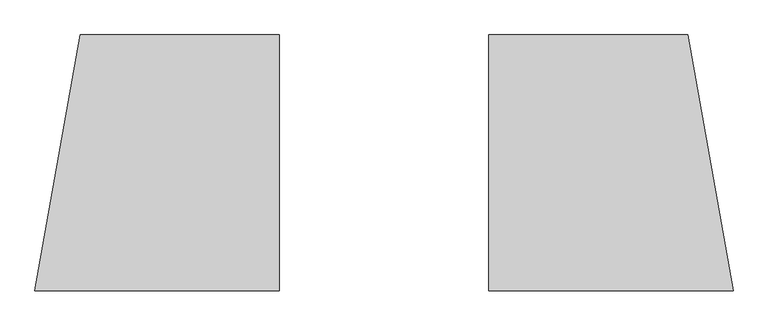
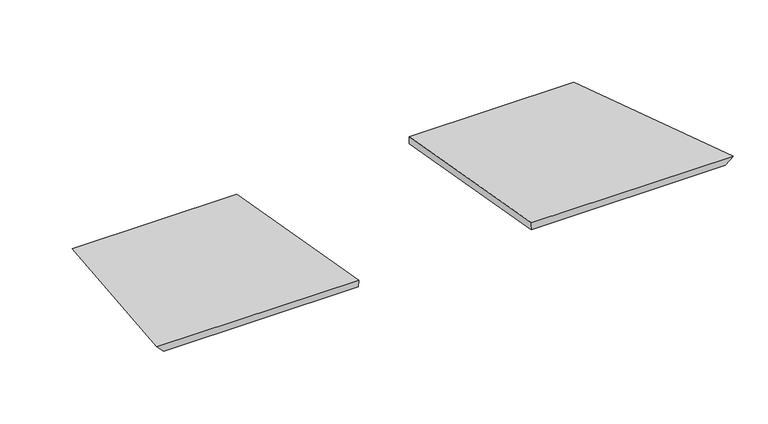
"""IFC4 building model written with IfcOpenShell, lengths in millimetres: proxy geometry, GRADIENT^TABLE 5_PRISM BASE-FRONT WING TOP."""

from ifc_helpers import new_model, si_unit, origin, place, context, project, spatial, faceted_brep, source, transform, mapped, element, save


def generic_models_bfa2ec4a(model_context):
    return source(origin(), model_context, "Body", "Brep", [
        faceted_brep([(990.6, 0.0, -473.4753938), (990.6, 0.0, -454.1315168), (990.6, -558.8, -355.6), (990.6, -557.0811135, -375.246963), (555.7315168, 0.0, -454.1315168), (457.2, -558.8, -355.6), (476.846963, -557.0811135, -375.246963), (575.0753938, 0.0, -473.4753938)], [[[0, 1, 2, 3]], [[2, 1, 4, 5]], [[3, 2, 5, 6]], [[1, 0, 7, 4]], [[0, 3, 6, 7]], [[6, 5, 4, 7]]]),
        faceted_brep([(1447.8, 0.0, -454.1315168), (1447.8, -558.8, -355.6), (1981.2, -558.8, -355.6), (1882.6684832, 0.0, -454.1315168), (1447.8, -557.0811135, -375.246963), (1961.553037, -557.0811135, -375.246963), (1447.8, 0.0, -473.4753938), (1863.3246062, 0.0, -473.4753938)], [[[0, 1, 2, 3]], [[1, 4, 5, 2]], [[6, 0, 3, 7]], [[4, 6, 7, 5]], [[2, 5, 7, 3]], [[0, 6, 4, 1]]]),
    ])


if __name__ == "__main__":
    model = new_model("IFC4")
    model_context = context("Model", 3, world=origin())
    ifc_project = project(units=[si_unit("LENGTHUNIT", "METRE", prefix="MILLI")], contexts=[model_context])
    site = spatial("IfcSite", under=ifc_project)
    building = spatial("IfcBuilding", under=site)
    placement = place(None, origin())
    generic_models_shape = generic_models_bfa2ec4a(model_context)
    element("IfcBuildingElementProxy", 1, Name="GRADIENT^TABLE 5_PRISM BASE-FRONT WING TOP", ObjectType="GRADIENT^TABLE 5_PRISM BASE-FRONT WING TOP", at=placement, inside=building, context=model_context, shape_type="MappedRepresentation", body=[
        mapped(generic_models_shape, transform((0.0, 0.0, 0.0), x_axis=(1.0, 0.0, 0.0), y_axis=(0.0, 1.0, 0.0), z_axis=(0.0, 0.0, 1.0))),
    ])
    save(model, "model.ifc")
